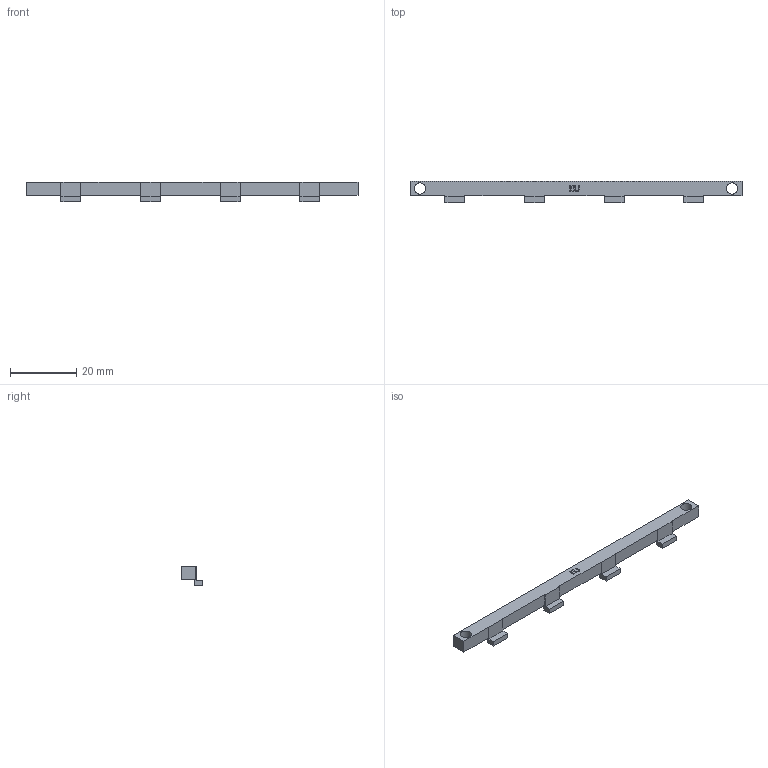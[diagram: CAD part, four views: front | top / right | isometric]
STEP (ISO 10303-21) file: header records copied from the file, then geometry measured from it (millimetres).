
FILE_DESCRIPTION(('Open CASCADE Model'),'2;1');
FILE_NAME('Open CASCADE Shape Model','2026-10-07T10:51:43',('Author'),( 'Open CASCADE'),'Open CASCADE STEP processor 7.8','Open CASCADE 7.8' ,'Unknown');
FILE_SCHEMA(('AUTOMOTIVE_DESIGN { 1 0 10303 214 1 1 1 1 }'));
Length unit declared in the file: millimetre
Products named in the file (1): Open CASCADE STEP translator 7.8 12
Bounding box: 100 x 6.5 x 5.95 mm (x, y, z)
Volume: 1811.2 mm3; surface area: 2011 mm2
Topology: 1 solids, 1 shells, 68 faces, 192 edges, 128 vertices
Faces by surface type: plane 58, extrusion 8, cylinder 2
Full cylindrical faces by diameter (mm): 3.4 x2
Entity records: 4784 total; most frequent: CARTESIAN_POINT 1099, DIRECTION 602, VECTOR 468, LINE 460, ORIENTED_EDGE 384, PCURVE 384, DEFINITIONAL_REPRESENTATION 384, EDGE_CURVE 192
